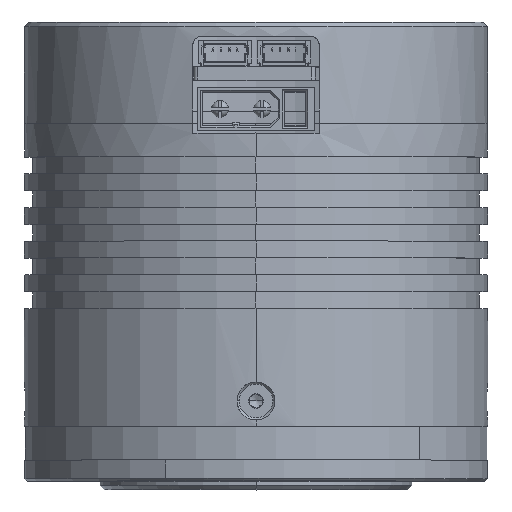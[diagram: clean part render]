
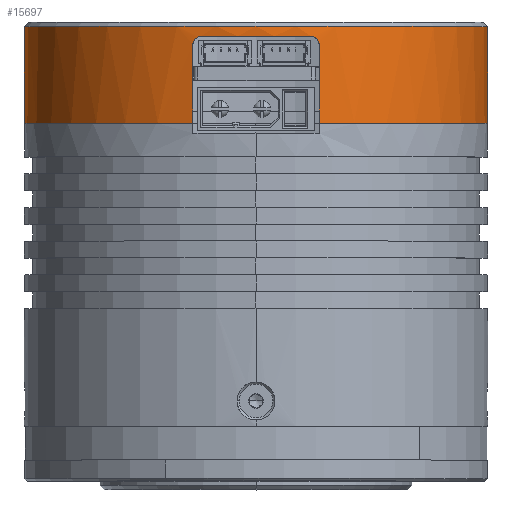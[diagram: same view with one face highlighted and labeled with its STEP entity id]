
A CAD part, top view. The second image highlights one B-rep face of the part: STEP entity #15697.
In plain terms, the highlighted cylindrical face has radius 27.5 mm (diameter 55 mm), a partial arc.
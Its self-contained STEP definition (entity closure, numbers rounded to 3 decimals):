
#186 = CARTESIAN_POINT ( 'NONE',  ( 7.5, 36., 26.458 ) ) ;
#364 = CIRCLE ( 'NONE', #4128, 27.5 ) ;
#453 = ORIENTED_EDGE ( 'NONE', *, *, #1999, .F. ) ;
#642 = DIRECTION ( 'NONE',  ( 0., 1., 0. ) ) ;
#680 = DIRECTION ( 'NONE',  ( 0., 1., 0. ) ) ;
#769 = CARTESIAN_POINT ( 'NONE',  ( 0., 46.3, 0. ) ) ;
#869 = CARTESIAN_POINT ( 'NONE',  ( -6.5, 46.3, 26.721 ) ) ;
#965 = EDGE_CURVE ( 'NONE', #6051, #14999, #10994, .T. ) ;
#1460 = B_SPLINE_CURVE_WITH_KNOTS ( 'NONE', 3,
 ( #6725, #13254, #8347, #4188, #1758, #5376, #3022, #1683 ),
 .UNSPECIFIED., .F., .F.,
 ( 4, 2, 2, 4 ),
 ( 0., 0., 0.001, 0.002 ),
 .UNSPECIFIED. ) ;
#1614 = EDGE_CURVE ( 'NONE', #15656, #2793, #364, .T. ) ;
#1683 = CARTESIAN_POINT ( 'NONE',  ( 7.5, 45.3, 26.458 ) ) ;
#1748 = CARTESIAN_POINT ( 'NONE',  ( 0., 36., 0. ) ) ;
#1758 = CARTESIAN_POINT ( 'NONE',  ( 7.109, 46.104, 26.566 ) ) ;
#1765 = CARTESIAN_POINT ( 'NONE',  ( 0., 36., 0. ) ) ;
#1919 = CYLINDRICAL_SURFACE ( 'NONE', #16654, 27.5 ) ;
#1951 = EDGE_CURVE ( 'NONE', #6180, #14492, #5577, .T. ) ;
#1961 = LINE ( 'NONE', #5985, #6102 ) ;
#1999 = EDGE_CURVE ( 'NONE', #6198, #9830, #9868, .T. ) ;
#2044 = CARTESIAN_POINT ( 'NONE',  ( -7.473, 45.566, 26.465 ) ) ;
#2793 = VERTEX_POINT ( 'NONE', #7710 ) ;
#2990 = ORIENTED_EDGE ( 'NONE', *, *, #15360, .T. ) ;
#3013 = LINE ( 'NONE', #8166, #11289 ) ;
#3022 = CARTESIAN_POINT ( 'NONE',  ( 7.5, 45.569, 26.458 ) ) ;
#3118 = CARTESIAN_POINT ( 'NONE',  ( 7.5, 45.3, 26.458 ) ) ;
#3172 = DIRECTION ( 'NONE',  ( 0., 1., 0. ) ) ;
#3502 = CARTESIAN_POINT ( 'NONE',  ( -7.5, 45.3, 26.458 ) ) ;
#3631 = B_SPLINE_CURVE_WITH_KNOTS ( 'NONE', 3,
 ( #14072, #16405, #2044, #12445, #8629, #14898, #8707, #16244, #5999, #869 ),
 .UNSPECIFIED., .F., .F.,
 ( 4, 2, 2, 2, 4 ),
 ( 0., 0., 0.001, 0.001, 0.002 ),
 .UNSPECIFIED. ) ;
#3815 = CARTESIAN_POINT ( 'NONE',  ( -27.5, 36., 0. ) ) ;
#3928 = CARTESIAN_POINT ( 'NONE',  ( 0., 36., 0. ) ) ;
#3951 = AXIS2_PLACEMENT_3D ( 'NONE', #3928, #7827, #11718 ) ;
#3978 = ORIENTED_EDGE ( 'NONE', *, *, #9739, .F. ) ;
#4128 = AXIS2_PLACEMENT_3D ( 'NONE', #6169, #4908, #10063 ) ;
#4188 = CARTESIAN_POINT ( 'NONE',  ( 6.998, 46.177, 26.595 ) ) ;
#4908 = DIRECTION ( 'NONE',  ( 0., -1., 0. ) ) ;
#5316 = AXIS2_PLACEMENT_3D ( 'NONE', #1765, #12316, #8356 ) ;
#5376 = CARTESIAN_POINT ( 'NONE',  ( 7.387, 45.83, 26.49 ) ) ;
#5577 = CIRCLE ( 'NONE', #5870, 27.5 ) ;
#5870 = AXIS2_PLACEMENT_3D ( 'NONE', #769, #680, #5905 ) ;
#5905 = DIRECTION ( 'NONE',  ( 0., 0., 1. ) ) ;
#5985 = CARTESIAN_POINT ( 'NONE',  ( 27.5, 36., 0. ) ) ;
#5999 = CARTESIAN_POINT ( 'NONE',  ( -6.63, 46.3, 26.689 ) ) ;
#6051 = VERTEX_POINT ( 'NONE', #11227 ) ;
#6056 = DIRECTION ( 'NONE',  ( 0., -1., 0. ) ) ;
#6102 = VECTOR ( 'NONE', #8452, 1000. ) ;
#6169 = CARTESIAN_POINT ( 'NONE',  ( 0., 47.5, 0. ) ) ;
#6180 = VERTEX_POINT ( 'NONE', #9016 ) ;
#6197 = ORIENTED_EDGE ( 'NONE', *, *, #965, .T. ) ;
#6198 = VERTEX_POINT ( 'NONE', #3502 ) ;
#6311 = EDGE_CURVE ( 'NONE', #6198, #6180, #3631, .T. ) ;
#6370 = ORIENTED_EDGE ( 'NONE', *, *, #14975, .T. ) ;
#6385 = CIRCLE ( 'NONE', #5316, 27.5 ) ;
#6725 = CARTESIAN_POINT ( 'NONE',  ( 6.5, 46.3, 26.721 ) ) ;
#6871 = CARTESIAN_POINT ( 'NONE',  ( 6.5, 46.3, 26.721 ) ) ;
#7291 = EDGE_CURVE ( 'NONE', #6051, #13367, #15184, .T. ) ;
#7710 = CARTESIAN_POINT ( 'NONE',  ( -27.5, 47.5, 0. ) ) ;
#7827 = DIRECTION ( 'NONE',  ( 0., 1., 0. ) ) ;
#8166 = CARTESIAN_POINT ( 'NONE',  ( -27.5, 36., 0. ) ) ;
#8347 = CARTESIAN_POINT ( 'NONE',  ( 6.758, 46.275, 26.657 ) ) ;
#8356 = DIRECTION ( 'NONE',  ( -1., 0., 0. ) ) ;
#8452 = DIRECTION ( 'NONE',  ( 0., 1., 0. ) ) ;
#8629 = CARTESIAN_POINT ( 'NONE',  ( -7.295, 45.921, 26.515 ) ) ;
#8693 = CARTESIAN_POINT ( 'NONE',  ( 27.5, 36., 0. ) ) ;
#8707 = CARTESIAN_POINT ( 'NONE',  ( -6.998, 46.177, 26.595 ) ) ;
#8743 = DIRECTION ( 'NONE',  ( 0., 1., 0. ) ) ;
#9016 = CARTESIAN_POINT ( 'NONE',  ( -6.5, 46.3, 26.721 ) ) ;
#9324 = VECTOR ( 'NONE', #8743, 1000. ) ;
#9712 = ORIENTED_EDGE ( 'NONE', *, *, #1951, .T. ) ;
#9739 = EDGE_CURVE ( 'NONE', #13762, #2793, #3013, .T. ) ;
#9830 = VERTEX_POINT ( 'NONE', #14756 ) ;
#9868 = LINE ( 'NONE', #16476, #11556 ) ;
#10063 = DIRECTION ( 'NONE',  ( -1., 0., 0. ) ) ;
#10994 = CIRCLE ( 'NONE', #3951, 27.5 ) ;
#11227 = CARTESIAN_POINT ( 'NONE',  ( 7.5, 36., 26.458 ) ) ;
#11289 = VECTOR ( 'NONE', #3172, 1000. ) ;
#11556 = VECTOR ( 'NONE', #6056, 1000. ) ;
#11718 = DIRECTION ( 'NONE',  ( -1., 0., 0. ) ) ;
#11738 = ORIENTED_EDGE ( 'NONE', *, *, #6311, .T. ) ;
#12020 = EDGE_CURVE ( 'NONE', #14492, #13367, #1460, .T. ) ;
#12316 = DIRECTION ( 'NONE',  ( 0., 1., 0. ) ) ;
#12445 = CARTESIAN_POINT ( 'NONE',  ( -7.37, 45.81, 26.494 ) ) ;
#13254 = CARTESIAN_POINT ( 'NONE',  ( 6.63, 46.3, 26.689 ) ) ;
#13367 = VERTEX_POINT ( 'NONE', #3118 ) ;
#13399 = CARTESIAN_POINT ( 'NONE',  ( 27.5, 47.5, 0. ) ) ;
#13462 = ORIENTED_EDGE ( 'NONE', *, *, #1614, .T. ) ;
#13762 = VERTEX_POINT ( 'NONE', #3815 ) ;
#14072 = CARTESIAN_POINT ( 'NONE',  ( -7.5, 45.3, 26.458 ) ) ;
#14206 = ORIENTED_EDGE ( 'NONE', *, *, #12020, .T. ) ;
#14492 = VERTEX_POINT ( 'NONE', #6871 ) ;
#14676 = FACE_OUTER_BOUND ( 'NONE', #16303, .T. ) ;
#14755 = DIRECTION ( 'NONE',  ( -1., 0., 0. ) ) ;
#14756 = CARTESIAN_POINT ( 'NONE',  ( -7.5, 36., 26.458 ) ) ;
#14853 = ORIENTED_EDGE ( 'NONE', *, *, #7291, .F. ) ;
#14898 = CARTESIAN_POINT ( 'NONE',  ( -7.109, 46.104, 26.565 ) ) ;
#14975 = EDGE_CURVE ( 'NONE', #14999, #15656, #1961, .T. ) ;
#14999 = VERTEX_POINT ( 'NONE', #8693 ) ;
#15184 = LINE ( 'NONE', #186, #9324 ) ;
#15360 = EDGE_CURVE ( 'NONE', #13762, #9830, #6385, .T. ) ;
#15656 = VERTEX_POINT ( 'NONE', #13399 ) ;
#15697 = ADVANCED_FACE ( 'NONE', ( #14676 ), #1919, .T. ) ;
#16244 = CARTESIAN_POINT ( 'NONE',  ( -6.76, 46.274, 26.657 ) ) ;
#16303 = EDGE_LOOP ( 'NONE', ( #6197, #6370, #13462, #3978, #2990, #453, #11738, #9712, #14206, #14853 ) ) ;
#16405 = CARTESIAN_POINT ( 'NONE',  ( -7.5, 45.434, 26.458 ) ) ;
#16476 = CARTESIAN_POINT ( 'NONE',  ( -7.5, 36., 26.458 ) ) ;
#16654 = AXIS2_PLACEMENT_3D ( 'NONE', #1748, #642, #14755 ) ;
